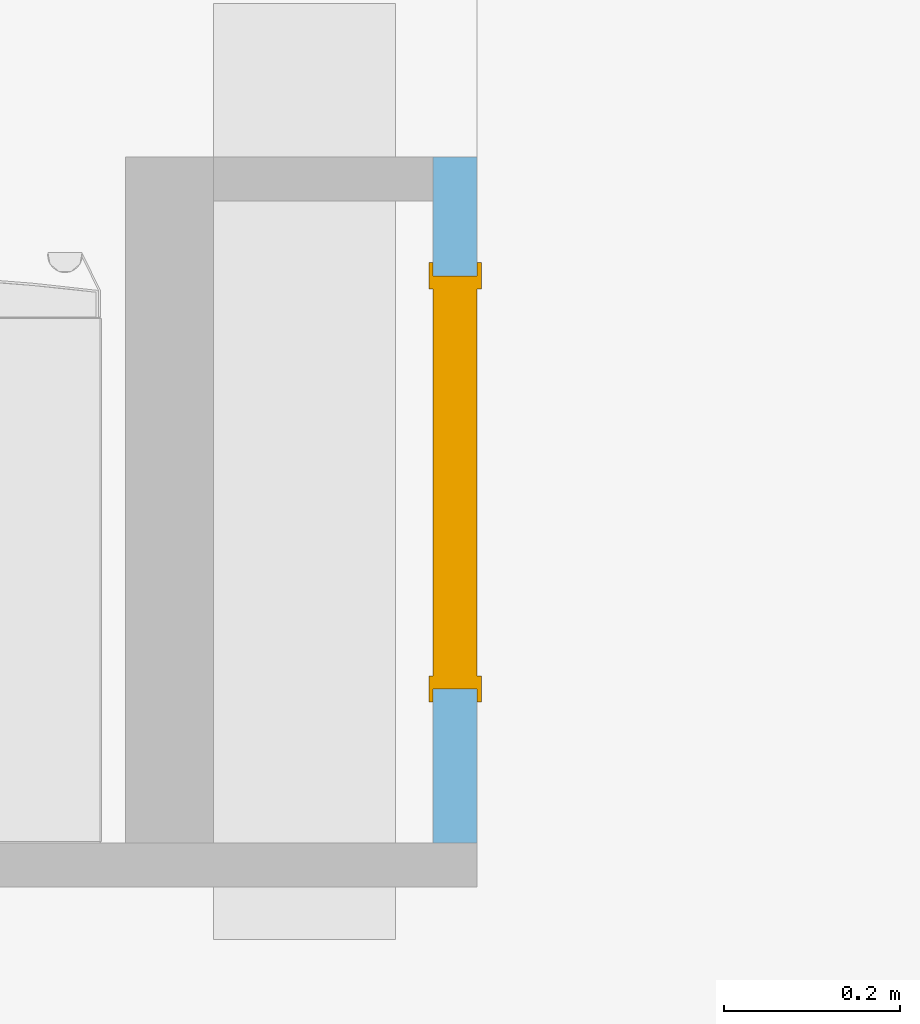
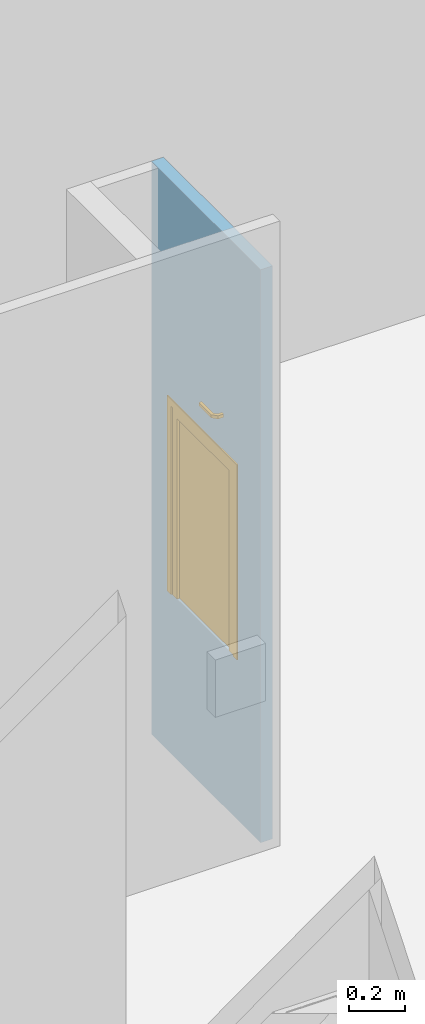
# One storey, part 77 of 81: 1 door, 1 opening, plus 1 element that does not belong to this part.
"""IFC2X3 building model written with IfcOpenShell, lengths in metres."""

from ifc_helpers import new_model, entity, si_unit, converted_unit, derived_unit, direction, frame, frame_2d, origin, place, context, subcontext, project, spatial, polyline, rectangle, extrude, clip, bounded_halfspace, faceted_brep, source, transform, mapped, material, material_list, layer, layer_set, layer_usage, type_object, type_shapes, element, fill, save


model = new_model("IFC2X3")

# Units and contexts
model_context = context("Model", 3, precision=1e-05, world=origin(), true_north=direction((6.12303176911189e-17, 1.0)))
body_context = subcontext(model_context, "Body", "Model", "MODEL_VIEW")
ifc_project = project(units=[si_unit("LENGTHUNIT", "METRE"), si_unit("AREAUNIT", "SQUARE_METRE"), si_unit("VOLUMEUNIT", "CUBIC_METRE"), converted_unit("PLANEANGLEUNIT", "DEGREE", entity("IfcRatioMeasure", 0.0174532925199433), si_unit("PLANEANGLEUNIT", "RADIAN"), dimensions=[0, 0, 0, 0, 0, 0, 0]), si_unit("MASSUNIT", "GRAM", prefix="KILO"), derived_unit("MASSDENSITYUNIT", [(si_unit("MASSUNIT", "GRAM", prefix="KILO"), 1), (si_unit("LENGTHUNIT", "METRE"), -3)]), derived_unit("MOMENTOFINERTIAUNIT", [(si_unit("LENGTHUNIT", "METRE"), 4)]), si_unit("TIMEUNIT", "SECOND"), si_unit("FREQUENCYUNIT", "HERTZ"), si_unit("THERMODYNAMICTEMPERATUREUNIT", "DEGREE_CELSIUS"), derived_unit("THERMALTRANSMITTANCEUNIT", [(si_unit("MASSUNIT", "GRAM", prefix="KILO"), 1), (si_unit("THERMODYNAMICTEMPERATUREUNIT", "KELVIN"), -1), (si_unit("TIMEUNIT", "SECOND"), -3)]), derived_unit("VOLUMETRICFLOWRATEUNIT", [(si_unit("LENGTHUNIT", "METRE"), 3), (si_unit("TIMEUNIT", "SECOND"), -1)]), si_unit("ELECTRICCURRENTUNIT", "AMPERE"), si_unit("ELECTRICVOLTAGEUNIT", "VOLT"), si_unit("POWERUNIT", "WATT"), si_unit("FORCEUNIT", "NEWTON", prefix="KILO"), si_unit("ILLUMINANCEUNIT", "LUX"), si_unit("LUMINOUSFLUXUNIT", "LUMEN"), si_unit("LUMINOUSINTENSITYUNIT", "CANDELA"), derived_unit("USERDEFINED", [(si_unit("MASSUNIT", "GRAM", prefix="KILO"), -1), (si_unit("LENGTHUNIT", "METRE"), -2), (si_unit("TIMEUNIT", "SECOND"), 3), (si_unit("LUMINOUSFLUXUNIT", "LUMEN"), 1)]), derived_unit("LINEARVELOCITYUNIT", [(si_unit("LENGTHUNIT", "METRE"), 1), (si_unit("TIMEUNIT", "SECOND"), -1)]), si_unit("PRESSUREUNIT", "PASCAL"), derived_unit("USERDEFINED", [(si_unit("LENGTHUNIT", "METRE"), -2), (si_unit("MASSUNIT", "GRAM", prefix="KILO"), 1), (si_unit("TIMEUNIT", "SECOND"), -2)]), derived_unit("LINEARFORCEUNIT", [(si_unit("MASSUNIT", "GRAM", prefix="KILO"), 1), (si_unit("LENGTHUNIT", "METRE"), 1), (si_unit("TIMEUNIT", "SECOND"), -2), (si_unit("LENGTHUNIT", "METRE"), -1)]), derived_unit("PLANARFORCEUNIT", [(si_unit("MASSUNIT", "GRAM", prefix="KILO"), 1), (si_unit("LENGTHUNIT", "METRE"), 1), (si_unit("TIMEUNIT", "SECOND"), -2), (si_unit("LENGTHUNIT", "METRE"), -2)])], contexts=[model_context])

# Site, building, storey
site_placement = place(None, origin())
site = spatial("IfcSite", under=ifc_project, at=site_placement, Name="Surface", CompositionType="ELEMENT")
building_placement = place(site_placement, origin())
building = spatial("IfcBuilding", under=site, at=building_placement, CompositionType="ELEMENT")
storey_placement = place(building_placement, origin())
storey = spatial("IfcBuildingStorey", under=building, at=storey_placement, Name="01 RDC", CompositionType="ELEMENT", Elevation=-1.94916083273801e-14)

# Wall, opening, door
ifc_material_1 = material(Name="Mur par défaut")
ifc_layer = layer(ifc_material_1, 0.05)
ifc_layer_set = layer_set([ifc_layer], Name="Mur de base:Int. Plâtre 50 mm")
ifc_layer_usage = layer_usage(ifc_layer_set, "AXIS2", "NEGATIVE", 0.025)
wall_type = type_object("IfcWallType", Name="Mur de base:Int. Plâtre 50 mm", PredefinedType="STANDARD", material=ifc_layer_set)
wall_placement = place(storey_placement, frame((8.66656158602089, 0.884039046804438, 0.0), z_axis=(0.0, 0.0, 1.0), x_axis=(0.0, 1.0, 0.0)))
wall = element("IfcWallStandardCase", 1, at=wall_placement, inside=storey, type_object=wall_type, material=ifc_layer_usage, Name="Mur de base:Int. Plâtre 50 mm", ObjectType="Mur de base:Int. Plâtre 50 mm", context=body_context, shape_type="Clipping", body=[
    clip(extrude(rectangle(XDim=0.78, YDim=0.0499999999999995, at=frame_2d((0.39, 9.8879238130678e-17), x_axis=(-1.0, 0.0))), origin(), (0.0, 0.0, 1.0), 2.495), bounded_halfspace(frame((0.0, -0.0250000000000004, 2.495), z_axis=(0.0, 0.0, -1.0), x_axis=(1.0, 0.0, 0.0)), True, frame((0.0, -0.0250000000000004, 2.495)), polyline([(0.0, 0.0), (0.78, 0.0), (0.78, 0.0500000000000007), (0.73, 0.0500000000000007), (0.0, 0.0500000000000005), (0.0, 0.0)]))),
])
opening_placement = place(wall_placement, frame((0.64499999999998, 0.0250000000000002, 0.69999999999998)))
opening = element("IfcOpeningElement", 2, at=opening_placement, cuts=wall, Name="Int. Simple:PP (0.60 m x 0.8 m):1", ObjectType="Opening", context=body_context, shape_type="SweptSolid", body=[
    extrude(rectangle(XDim=0.835000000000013, YDim=0.469999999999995, at=frame_2d((0.417500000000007, 0.234999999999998), x_axis=(1.0, 0.0))), frame((0.0, 0.0, 0.0), z_axis=(0.0, -1.0, 0.0), x_axis=(0.0, 0.0, 1.0)), (0.0, 0.0, 1.0), 0.05),
])
ifc_material_2 = material(Name="Finition Peinture - Blanc satiné")
ifc_material_3 = material(Name="Bois - Panneau de porte")
ifc_material_4 = material(Name="Bois - Cadre de porte")
ifc_material_list_1 = material_list([ifc_material_2, ifc_material_3, ifc_material_4])
ifc_material_list_2 = material_list([ifc_material_4, ifc_material_3, ifc_material_2, ifc_material_4])
door_style = type_object("IfcDoorStyle", Name="Int. Simple:PP (0.60 m x 0.8 m)", ConstructionType="NOTDEFINED", OperationType="NOTDEFINED", ParameterTakesPrecedence=False, Sizeable=False, material=ifc_material_list_2)
shared_shape = source(origin(), body_context, "Body", "Brep", [
    faceted_brep([(0.105352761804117, -0.00500000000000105, 0.866003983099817), (0.115000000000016, -0.00500000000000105, 0.870000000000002), (0.115000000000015, -0.00500000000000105, 1.08), (0.105352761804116, -0.00500000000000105, 1.08399601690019), (0.0950000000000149, -0.00500000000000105, 1.08535898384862), (0.0846472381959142, -0.00500000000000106, 1.08399601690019), (0.0750000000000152, -0.00500000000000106, 1.08), (0.0750000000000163, -0.00500000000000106, 0.870000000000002), (0.0846472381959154, -0.00500000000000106, 0.866003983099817), (0.095000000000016, -0.00500000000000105, 0.86464101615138), (0.105352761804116, 0.0, 1.08399601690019), (0.115000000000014, 0.0, 1.08), (0.115000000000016, 0.0, 0.870000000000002), (0.105352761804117, 0.0, 0.866003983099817), (0.095000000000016, 0.0, 0.86464101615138), (0.0846472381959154, 0.0, 0.866003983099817), (0.0750000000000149, 0.0, 0.870000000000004), (0.0750000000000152, 0.0, 1.08), (0.0846472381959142, 0.0, 1.08399601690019), (0.0950000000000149, 0.0, 1.08535898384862)], [[[0, 1, 2, 3, 4, 5, 6, 7, 8, 9]], [[10, 11, 12, 13, 14, 15, 16, 17, 18, 19]], [[16, 15, 8, 7]], [[8, 15, 14, 9]], [[14, 13, 0, 9]], [[13, 12, 1, 0]], [[2, 1, 12, 11]], [[11, 10, 3, 2]], [[3, 10, 19, 4]], [[19, 18, 5, 4]], [[18, 17, 6, 5]], [[7, 6, 17, 16]]]),
    faceted_brep([(0.105352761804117, 0.0399999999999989, 0.866003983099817), (0.115000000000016, 0.0399999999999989, 0.870000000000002), (0.115000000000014, 0.0399999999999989, 1.08), (0.105352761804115, 0.0399999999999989, 1.08399601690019), (0.0950000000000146, 0.0399999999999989, 1.08535898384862), (0.0846472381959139, 0.0399999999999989, 1.08399601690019), (0.0750000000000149, 0.0399999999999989, 1.08), (0.0750000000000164, 0.0399999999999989, 0.870000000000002), (0.0846472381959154, 0.0399999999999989, 0.866003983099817), (0.0950000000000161, 0.0399999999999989, 0.86464101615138), (0.105352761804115, 0.0449999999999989, 1.08399601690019), (0.115000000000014, 0.0449999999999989, 1.08), (0.115000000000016, 0.0449999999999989, 0.870000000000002), (0.105352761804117, 0.0449999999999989, 0.866003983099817), (0.0950000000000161, 0.0449999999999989, 0.86464101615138), (0.0846472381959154, 0.0449999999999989, 0.866003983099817), (0.0750000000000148, 0.0449999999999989, 0.870000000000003), (0.0750000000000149, 0.0449999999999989, 1.08), (0.0846472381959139, 0.0449999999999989, 1.08399601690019), (0.0950000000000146, 0.0449999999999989, 1.08535898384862)], [[[0, 1, 2, 3, 4, 5, 6, 7, 8, 9]], [[10, 11, 12, 13, 14, 15, 16, 17, 18, 19]], [[11, 10, 3, 2]], [[3, 10, 19, 4]], [[19, 18, 5, 4]], [[18, 17, 6, 5]], [[7, 6, 17, 16]], [[16, 15, 8, 7]], [[8, 15, 14, 9]], [[14, 13, 0, 9]], [[13, 12, 1, 0]], [[2, 1, 12, 11]]]),
    faceted_brep([(0.0929747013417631, -0.00500000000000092, 1.00778044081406), (0.0970252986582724, -0.0050000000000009, 1.00778044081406), (0.101000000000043, -0.00500000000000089, 1.00699999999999), (0.101000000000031, -0.00500000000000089, 0.993000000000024), (0.0970252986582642, -0.0050000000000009, 0.992219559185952), (0.092974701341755, -0.00500000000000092, 0.99221955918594), (0.0889999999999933, -0.00500000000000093, 0.992999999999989), (0.0889999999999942, -0.00500000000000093, 1.007), (0.088999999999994, -0.0326509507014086, 1.007), (0.092974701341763, -0.0310045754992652, 1.00778044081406), (0.109023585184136, -0.0470534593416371, 1.00778044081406), (0.110701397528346, -0.0430028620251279, 1.00778044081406), (0.0970252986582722, -0.0293267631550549, 1.00778044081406), (0.101000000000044, -0.0276803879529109, 1.007), (0.101000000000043, -0.0276803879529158, 0.993000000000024), (0.0970252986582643, -0.0293267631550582, 0.992219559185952), (0.110701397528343, -0.0430028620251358, 0.992219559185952), (0.109023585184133, -0.047053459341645, 0.99221955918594), (0.0929747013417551, -0.0310045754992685, 0.99221955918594), (0.0889999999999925, -0.0326509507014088, 0.992999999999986), (0.107377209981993, -0.0510281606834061, 1.007), (0.112347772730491, -0.0390281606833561, 1.007), (0.112347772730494, -0.0390281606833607, 0.993000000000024), (0.107377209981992, -0.0510281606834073, 0.992999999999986), (0.195018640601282, -0.0510281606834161, 0.992999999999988), (0.195018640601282, -0.0470534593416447, 0.99221955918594), (0.195018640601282, -0.0430028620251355, 0.992219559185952), (0.195018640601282, -0.039028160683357, 0.993000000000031), (0.195018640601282, -0.0390281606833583, 1.007), (0.195018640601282, -0.0430028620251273, 1.00778044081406), (0.195018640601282, -0.0470534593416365, 1.00778044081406), (0.195018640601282, -0.0510281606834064, 1.00699999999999), (0.147307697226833, -0.0510281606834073, 1.007), (0.1528600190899, -0.045028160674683, 1.0078786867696), (0.153683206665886, -0.039028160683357, 1.007), (0.153683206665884, -0.0390281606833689, 0.993000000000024), (0.152860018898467, -0.0450281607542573, 0.992121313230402), (0.147307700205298, -0.0510281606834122, 0.992999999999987)], [[[0, 1, 2, 3, 4, 5, 6, 7]], [[8, 9, 0, 7]], [[9, 10, 11, 12, 1, 0]], [[12, 13, 2, 1]], [[3, 2, 13, 14]], [[14, 15, 4, 3]], [[15, 16, 17, 18, 5, 4]], [[18, 19, 6, 5]], [[7, 6, 19, 8]], [[20, 10, 9, 8]], [[11, 21, 13, 12]], [[14, 13, 21, 22]], [[22, 16, 15, 14]], [[17, 23, 19, 18]], [[8, 19, 23, 20]], [[24, 25, 26, 27, 28, 29, 30, 31]], [[32, 30, 33]], [[31, 30, 32]], [[10, 20, 32]], [[33, 34, 11]], [[21, 11, 34]], [[34, 29, 28]], [[30, 29, 33]], [[29, 34, 33]], [[10, 32, 33]], [[10, 33, 11]], [[22, 21, 34, 28, 27, 35]], [[35, 26, 36]], [[37, 36, 25]], [[22, 35, 16]], [[35, 27, 26]], [[24, 37, 25]], [[23, 17, 37]], [[37, 17, 36]], [[17, 16, 36]], [[16, 35, 36]], [[25, 36, 26]], [[20, 23, 37, 24, 31, 32]]]),
    faceted_brep([(0.0929747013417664, 0.0449999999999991, 1.00778044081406), (0.0889999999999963, 0.044999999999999, 1.007), (0.0889999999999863, 0.044999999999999, 0.992999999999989), (0.0929747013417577, 0.0449999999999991, 0.99221955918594), (0.0970252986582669, 0.0449999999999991, 0.992219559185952), (0.101000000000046, 0.0449999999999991, 0.993000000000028), (0.101000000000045, 0.0449999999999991, 1.007), (0.0970252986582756, 0.0449999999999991, 1.00778044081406), (0.101000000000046, 0.067485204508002, 0.993000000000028), (0.101000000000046, 0.0674852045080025, 1.007), (0.0970252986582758, 0.0691315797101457, 1.00778044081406), (0.110838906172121, 0.0829451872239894, 1.00778044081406), (0.109161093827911, 0.0869957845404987, 1.00778044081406), (0.0929747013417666, 0.070809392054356, 1.00778044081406), (0.0889999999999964, 0.0724557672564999, 1.007), (0.0889999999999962, 0.072455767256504, 0.992999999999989), (0.0929747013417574, 0.0708093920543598, 0.99221955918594), (0.109161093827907, 0.0869957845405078, 0.99221955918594), (0.110838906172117, 0.0829451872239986, 0.992219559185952), (0.0970252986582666, 0.0691315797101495, 0.992219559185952), (0.112485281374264, 0.0789704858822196, 0.993000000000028), (0.112485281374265, 0.0789704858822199, 1.007), (0.107514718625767, 0.0909704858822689, 1.007), (0.10751471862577, 0.090970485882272, 0.992999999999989), (0.19504578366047, 0.0789704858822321, 0.993000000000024), (0.19504578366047, 0.0829451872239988, 0.992219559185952), (0.19504578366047, 0.086995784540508, 0.99221955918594), (0.19504578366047, 0.0909704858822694, 0.992999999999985), (0.19504578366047, 0.0909704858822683, 1.007), (0.19504578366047, 0.0869957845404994, 1.00778044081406), (0.19504578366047, 0.0829451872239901, 1.00778044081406), (0.19504578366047, 0.0789704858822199, 1.007), (0.153765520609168, 0.0789704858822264, 0.993000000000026), (0.153765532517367, 0.0789704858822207, 1.007), (0.15294234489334, 0.0849704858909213, 1.0078786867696), (0.147445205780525, 0.0909704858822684, 1.007), (0.147445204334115, 0.0909704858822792, 0.992999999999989), (0.152942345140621, 0.0849704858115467, 0.992121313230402)], [[[0, 1, 2, 3, 4, 5, 6, 7]], [[6, 5, 8, 9]], [[9, 10, 7, 6]], [[10, 11, 12, 13, 0, 7]], [[13, 14, 1, 0]], [[2, 1, 14, 15]], [[15, 16, 3, 2]], [[16, 17, 18, 19, 4, 3]], [[19, 8, 5, 4]], [[9, 8, 20, 21]], [[21, 11, 10, 9]], [[12, 22, 14, 13]], [[15, 14, 22, 23]], [[23, 17, 16, 15]], [[18, 20, 8, 19]], [[24, 25, 26, 27, 28, 29, 30, 31]], [[21, 20, 32, 24, 31, 33]], [[33, 30, 34]], [[35, 34, 29]], [[21, 33, 11]], [[33, 31, 30]], [[28, 35, 29]], [[22, 12, 35]], [[35, 12, 34]], [[12, 11, 34]], [[11, 33, 34]], [[29, 34, 30]], [[22, 35, 28, 27, 36, 23]], [[36, 26, 37]], [[27, 26, 36]], [[17, 23, 36]], [[37, 32, 18]], [[20, 18, 32]], [[32, 25, 24]], [[26, 25, 37]], [[25, 32, 37]], [[17, 36, 37]], [[17, 37, 18]]]),
    faceted_brep([(0.035000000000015, 0.0400000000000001, 0.8), (0.435000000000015, 0.0400000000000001, 0.8), (0.435000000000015, 0.0400000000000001, 0.0), (0.035000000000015, 0.0400000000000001, 0.0), (0.035000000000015, 0.0, 0.8), (0.035000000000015, 0.0, 0.0), (0.435000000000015, 0.0, 0.0), (0.435000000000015, 0.0, 0.8)], [[[0, 1, 2, 3]], [[4, 5, 6, 7]], [[1, 0, 4, 7]], [[2, 1, 7, 6]], [[3, 2, 6, 5]], [[0, 3, 5, 4]]]),
    faceted_brep([(0.0, 0.0, 0.0), (0.0, 0.050000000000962, 0.0), (0.0500000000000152, 0.050000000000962, 0.0), (0.0500000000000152, 0.040000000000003, 0.0), (0.0350000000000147, 0.040000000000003, 0.0), (0.0350000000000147, 0.0, 0.0), (0.0, 0.0, 0.835000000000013), (0.0, 0.050000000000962, 0.835000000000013), (0.469999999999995, 0.050000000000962, 0.835000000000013), (0.469999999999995, 0.050000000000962, 0.0), (0.41999999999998, 0.050000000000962, 0.0), (0.41999999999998, 0.050000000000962, 0.784999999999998), (0.0500000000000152, 0.050000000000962, 0.784999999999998), (0.0500000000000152, 0.040000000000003, 0.784999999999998), (0.41999999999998, 0.040000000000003, 0.784999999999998), (0.41999999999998, 0.040000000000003, 0.0), (0.434999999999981, 0.040000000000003, 0.0), (0.434999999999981, 0.040000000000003, 0.799999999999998), (0.0350000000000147, 0.040000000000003, 0.799999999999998), (0.0350000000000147, 0.0, 0.799999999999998), (0.434999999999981, 0.0, 0.799999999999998), (0.434999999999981, 0.0, 0.0), (0.469999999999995, 0.0, 0.0), (0.469999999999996, 0.0, 0.835000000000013)], [[[0, 1, 2, 3, 4, 5]], [[1, 0, 6, 7]], [[2, 1, 7, 8, 9, 10, 11, 12]], [[3, 2, 12, 13]], [[4, 3, 13, 14, 15, 16, 17, 18]], [[5, 4, 18, 19]], [[0, 5, 19, 20, 21, 22, 23, 6]], [[8, 23, 22, 9]], [[22, 21, 16, 15, 10, 9]], [[14, 11, 10, 15]], [[20, 17, 16, 21]], [[7, 6, 23, 8]], [[13, 12, 11, 14]], [[19, 18, 17, 20]]]),
    faceted_brep([(0.0149999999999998, 0.050000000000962, 0.0), (-0.0150000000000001, 0.050000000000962, 0.0), (-0.0150000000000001, 0.055000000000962, 0.0), (0.0149999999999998, 0.055000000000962, 0.0), (0.0149999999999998, 0.050000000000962, 0.820000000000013), (0.454999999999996, 0.050000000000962, 0.820000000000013), (0.454999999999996, 0.050000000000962, 0.0), (0.484999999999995, 0.050000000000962, 0.0), (0.484999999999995, 0.050000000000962, 0.850000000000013), (-0.0150000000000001, 0.050000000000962, 0.850000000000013), (-0.0150000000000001, 0.055000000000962, 0.850000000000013), (0.484999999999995, 0.055000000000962, 0.850000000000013), (0.484999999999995, 0.055000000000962, 0.0), (0.454999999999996, 0.055000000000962, 0.0), (0.454999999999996, 0.055000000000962, 0.820000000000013), (0.0149999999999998, 0.055000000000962, 0.820000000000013)], [[[0, 1, 2, 3]], [[1, 0, 4, 5, 6, 7, 8, 9]], [[2, 1, 9, 10]], [[3, 2, 10, 11, 12, 13, 14, 15]], [[0, 3, 15, 4]], [[6, 13, 12, 7]], [[5, 14, 13, 6]], [[11, 8, 7, 12]], [[10, 9, 8, 11]], [[4, 15, 14, 5]]]),
    faceted_brep([(-0.0150000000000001, -0.005, 0.0), (0.0149999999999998, -0.005, 0.0), (0.0149999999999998, -0.005, 0.820000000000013), (0.454999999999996, -0.005, 0.820000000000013), (0.454999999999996, -0.005, 0.0), (0.484999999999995, -0.005, 0.0), (0.484999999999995, -0.005, 0.850000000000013), (-0.0150000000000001, -0.005, 0.850000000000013), (-0.0150000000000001, 0.0, 0.0), (-0.0150000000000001, 0.0, 0.850000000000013), (0.0149999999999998, 0.0, 0.0), (0.484999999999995, 0.0, 0.850000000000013), (0.484999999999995, 0.0, 0.0), (0.454999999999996, 0.0, 0.0), (0.454999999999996, 0.0, 0.820000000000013), (0.0149999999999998, 0.0, 0.820000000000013)], [[[0, 1, 2, 3, 4, 5, 6, 7]], [[8, 0, 7, 9]], [[10, 8, 9, 11, 12, 13, 14, 15]], [[1, 10, 15, 2]], [[3, 14, 13, 4]], [[11, 6, 5, 12]], [[9, 7, 6, 11]], [[2, 15, 14, 3]], [[4, 13, 12, 5]], [[1, 0, 8, 10]]]),
])
type_shapes(door_style, [shared_shape])
door_placement = place(opening_placement, frame((-0.469999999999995, -0.0499999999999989, 0.0)))
door = element("IfcDoor", 3, at=door_placement, inside=storey, type_object=door_style, material=ifc_material_list_1, Name="Int. Simple:PP (0.60 m x 0.8 m)", ObjectType="Int. Simple:PP (0.60 m x 0.8 m)", OverallHeight=0.835000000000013, OverallWidth=0.469999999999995, context=body_context, shape_type="MappedRepresentation", body=[
    mapped(shared_shape, transform((0.0, 0.0, 0.0), scale=1.0)),
])
fill(opening, door)

save(model, "model.ifc")
